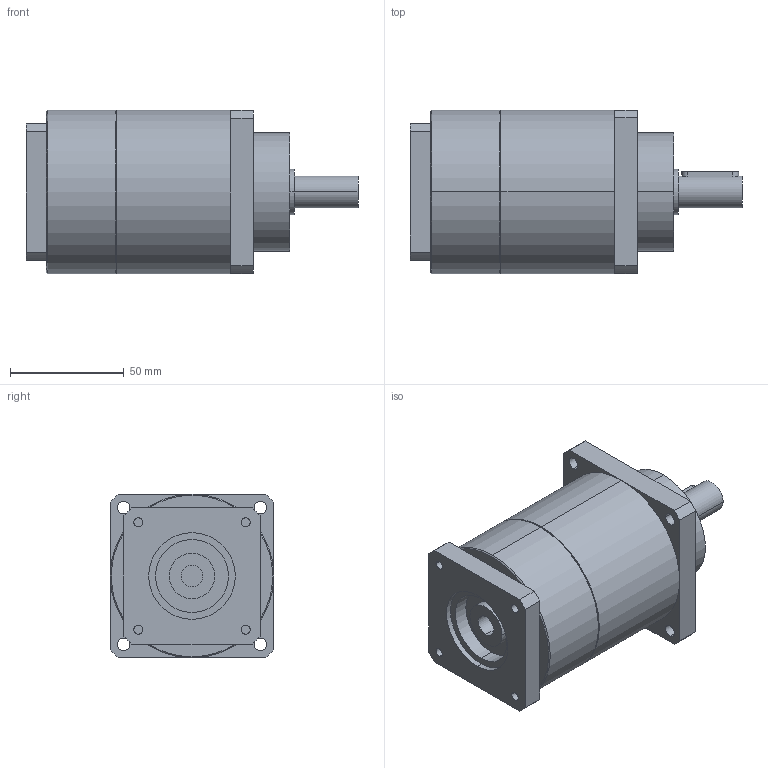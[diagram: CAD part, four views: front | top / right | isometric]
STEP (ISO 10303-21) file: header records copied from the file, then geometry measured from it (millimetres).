
FILE_DESCRIPTION(('CoCreate Modeling STEP Export'),'2;1');
FILE_NAME('GPT75_ig-9-12-16-20-25-28-35-40-50-70-100_14_B5T_9.52_P28.stp','2014-08-27T13:43:24',(''),(''),'CoCreate Modeling STEP processor for AP214 (Solid Model)','CoCreate Modeling 16.00C 25-Feb-2009 (C) Parametric Technology GmbH','');
FILE_SCHEMA(('AUTOMOTIVE_DESIGN { 1 0 10303 214 1 1 1 1 }'));
Length unit declared in the file: millimetre
Products named in the file (2): GPT75_ig-9-12-16-20-25-28-35-40-50-70-100_14_B5T_9.52_P28
Assembly tree (1 placements, depth 2):
  GPT75_ig-9-12-16-20-25-28-35-40-50-70-100_14_B5T_9.52_P28
    GPT75_ig-9-12-16-20-25-28-35-40-50-70-100_14_B5T_9.52_P28
Bounding box: 146 x 72 x 72 mm (x, y, z)
Volume: 441802.8 mm3; surface area: 41356.4 mm2
Topology: 1 solids, 1 shells, 88 faces, 210 edges, 137 vertices
Faces by surface type: cylinder 46, plane 38, cone 4
Entity records: 2592 total; most frequent: CARTESIAN_POINT 732, ORIENTED_EDGE 420, DIRECTION 326, EDGE_CURVE 210, VERTEX_POINT 137, AXIS2_PLACEMENT_3D 119, EDGE_LOOP 109, VECTOR 88
